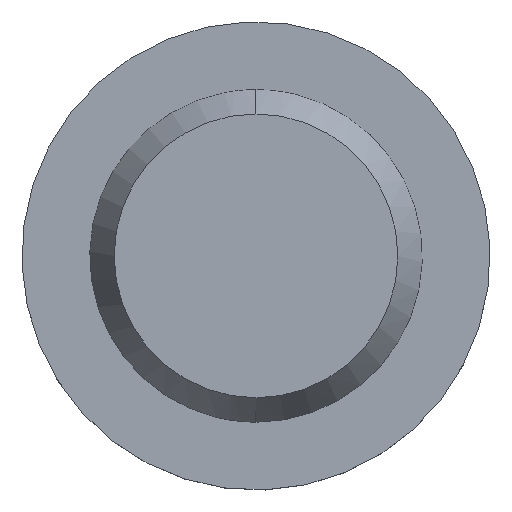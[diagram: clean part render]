
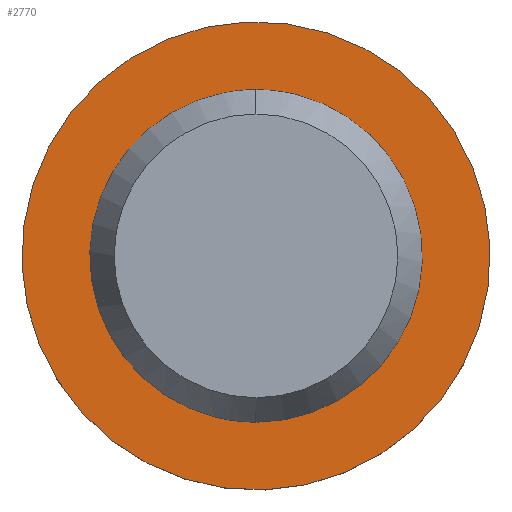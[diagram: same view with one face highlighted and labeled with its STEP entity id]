
A CAD part, top view. The second image highlights one B-rep face of the part: STEP entity #2770.
In plain terms, the highlighted planar face has unit normal (0, 0, 1).
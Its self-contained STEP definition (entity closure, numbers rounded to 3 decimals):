
#2570=CARTESIAN_POINT('',(-99.563,-74.623,
-4.8));
#2580=DIRECTION('',(0.,0.,-1.));
#2590=DIRECTION('',(-1.,0.,0.));
#2600=AXIS2_PLACEMENT_3D('',#2570,#2580,#2590);
#2610=PLANE('',#2600);
#2620=CARTESIAN_POINT('',(0.,0.,
-4.8));
#2630=DIRECTION('',(0.,0.,-1.));
#2640=DIRECTION('',(0.999,0.039,0.));
#2650=AXIS2_PLACEMENT_3D('',#2620,#2630,#2640);
#2660=CIRCLE('',#2650,205.);
#2670=CARTESIAN_POINT('',(204.841,8.081,
-4.8));
#2680=VERTEX_POINT('',#2670);
#2690=CARTESIAN_POINT('',(-204.841,-8.081,
-4.8));
#2700=VERTEX_POINT('',#2690);
#2710=EDGE_CURVE('',#2680,#2700,#2660,.T.);
#2720=ORIENTED_EDGE('',*,*,#2710,.F.);
#2730=EDGE_CURVE('',#2700,#2680,#2660,.T.);
#2740=ORIENTED_EDGE('',*,*,#2730,.F.);
#2750=EDGE_LOOP('',(#2740,#2720));
#2760=FACE_OUTER_BOUND('',#2750,.T.);
#2770=ADVANCED_FACE('',(#2760),#2610,.F.);
